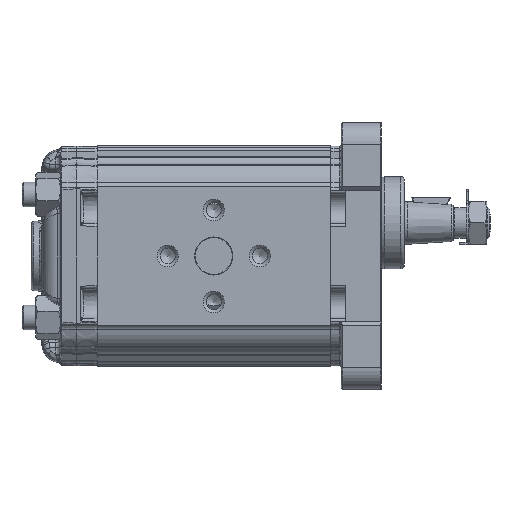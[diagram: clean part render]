
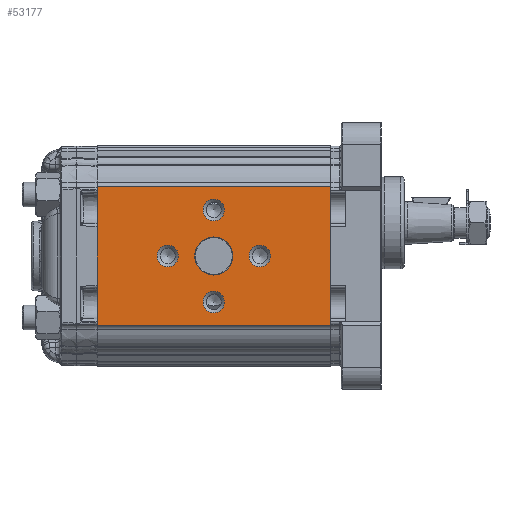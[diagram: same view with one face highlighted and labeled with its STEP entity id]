
A CAD part, left-side view. The second image highlights one B-rep face of the part: STEP entity #53177.
In plain terms, the highlighted planar face has unit normal (-1, 0, 0) as drawn and (1, 0, 0) by its records, which use the part's own axes.
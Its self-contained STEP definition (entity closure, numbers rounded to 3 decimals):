
#2169=LINE('',#75317,#4178);
#2171=LINE('',#75346,#4180);
#2196=LINE('',#75434,#4205);
#2197=LINE('',#75436,#4206);
#4178=VECTOR('',#62844,1000.);
#4180=VECTOR('',#62872,1000.);
#4205=VECTOR('',#62965,1000.);
#4206=VECTOR('',#62968,1000.);
#10869=ORIENTED_EDGE('',*,*,#20220,.T.);
#10870=ORIENTED_EDGE('',*,*,#20221,.T.);
#10871=ORIENTED_EDGE('',*,*,#20222,.T.);
#10872=ORIENTED_EDGE('',*,*,#20223,.T.);
#10873=ORIENTED_EDGE('',*,*,#20224,.T.);
#10874=ORIENTED_EDGE('',*,*,#20197,.T.);
#10875=ORIENTED_EDGE('',*,*,#20149,.T.);
#10876=ORIENTED_EDGE('',*,*,#20198,.T.);
#10877=ORIENTED_EDGE('',*,*,#20135,.F.);
#20135=EDGE_CURVE('',#25086,#25087,#2169,.T.);
#20149=EDGE_CURVE('',#25101,#25100,#2171,.T.);
#20197=EDGE_CURVE('',#25086,#25101,#2196,.T.);
#20198=EDGE_CURVE('',#25100,#25087,#2197,.F.);
#20220=EDGE_CURVE('',#25143,#25143,#28208,.F.);
#20221=EDGE_CURVE('',#25144,#25144,#28209,.F.);
#20222=EDGE_CURVE('',#25145,#25145,#28210,.F.);
#20223=EDGE_CURVE('',#25146,#25146,#28211,.F.);
#20224=EDGE_CURVE('',#25147,#25147,#28212,.F.);
#25086=VERTEX_POINT('',#75316);
#25087=VERTEX_POINT('',#75318);
#25100=VERTEX_POINT('',#75345);
#25101=VERTEX_POINT('',#75347);
#25143=VERTEX_POINT('',#75566);
#25144=VERTEX_POINT('',#75568);
#25145=VERTEX_POINT('',#75570);
#25146=VERTEX_POINT('',#75572);
#25147=VERTEX_POINT('',#75574);
#28208=CIRCLE('',#56398,6.2);
#28209=CIRCLE('',#56399,3.5);
#28210=CIRCLE('',#56400,3.5);
#28211=CIRCLE('',#56401,3.5);
#28212=CIRCLE('',#56402,3.5);
#30400=EDGE_LOOP('',(#10869));
#30401=EDGE_LOOP('',(#10870));
#30402=EDGE_LOOP('',(#10871));
#30403=EDGE_LOOP('',(#10872));
#30404=EDGE_LOOP('',(#10873));
#30405=EDGE_LOOP('',(#10874,#10875,#10876,#10877));
#33139=FACE_BOUND('',#30400,.T.);
#33140=FACE_BOUND('',#30401,.T.);
#33141=FACE_BOUND('',#30402,.T.);
#33142=FACE_BOUND('',#30403,.T.);
#33143=FACE_BOUND('',#30404,.T.);
#33144=FACE_BOUND('',#30405,.T.);
#35170=PLANE('',#56397);
#53177=ADVANCED_FACE('',(#33139,#33140,#33141,#33142,#33143,#33144),#35170,
 .T.);
#56397=AXIS2_PLACEMENT_3D('',#75564,#63017,#63018);
#56398=AXIS2_PLACEMENT_3D('',#75565,#63019,#63020);
#56399=AXIS2_PLACEMENT_3D('',#75567,#63021,#63022);
#56400=AXIS2_PLACEMENT_3D('',#75569,#63023,#63024);
#56401=AXIS2_PLACEMENT_3D('',#75571,#63025,#63026);
#56402=AXIS2_PLACEMENT_3D('',#75573,#63027,#63028);
#62844=DIRECTION('',(0.,0.,-1.));
#62872=DIRECTION('',(0.,0.,-1.));
#62965=DIRECTION('',(0.,-1.,0.));
#62968=DIRECTION('',(0.,-1.,0.));
#63017=DIRECTION('',(1.,0.,0.));
#63018=DIRECTION('',(0.,0.,-1.));
#63019=DIRECTION('',(1.,0.,0.));
#63020=DIRECTION('',(0.,0.,-1.));
#63021=DIRECTION('',(1.,0.,0.));
#63022=DIRECTION('',(0.,0.,-1.));
#63023=DIRECTION('',(1.,0.,0.));
#63024=DIRECTION('',(0.,0.,-1.));
#63025=DIRECTION('',(1.,0.,0.));
#63026=DIRECTION('',(0.,0.,-1.));
#63027=DIRECTION('',(1.,0.,0.));
#63028=DIRECTION('',(0.,0.,-1.));
#75316=CARTESIAN_POINT('',(33.,76.,22.5));
#75317=CARTESIAN_POINT('',(33.,76.,-21.711));
#75318=CARTESIAN_POINT('',(33.,76.,-22.5));
#75345=CARTESIAN_POINT('',(33.,0.,-22.5));
#75346=CARTESIAN_POINT('',(33.,0.,-21.711));
#75347=CARTESIAN_POINT('',(33.,0.,22.5));
#75434=CARTESIAN_POINT('',(33.,76.,22.5));
#75436=CARTESIAN_POINT('',(33.,76.,-22.5));
#75564=CARTESIAN_POINT('',(33.,140.14,-45.494));
#75565=CARTESIAN_POINT('',(33.,38.,0.));
#75566=CARTESIAN_POINT('',(33.,38.,-6.2));
#75567=CARTESIAN_POINT('',(33.,38.,-15.));
#75568=CARTESIAN_POINT('',(33.,38.,-18.5));
#75569=CARTESIAN_POINT('',(33.,53.,0.));
#75570=CARTESIAN_POINT('',(33.,53.,-3.5));
#75571=CARTESIAN_POINT('',(33.,38.,15.));
#75572=CARTESIAN_POINT('',(33.,38.,11.5));
#75573=CARTESIAN_POINT('',(33.,23.,0.));
#75574=CARTESIAN_POINT('',(33.,23.,-3.5));
